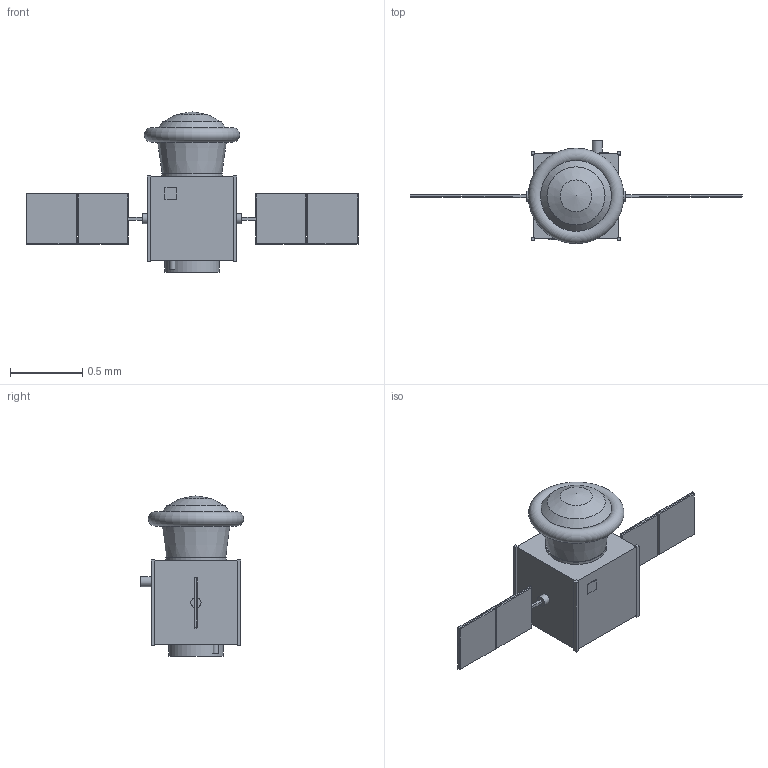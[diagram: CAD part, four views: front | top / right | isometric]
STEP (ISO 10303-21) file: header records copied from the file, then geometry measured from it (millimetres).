
FILE_DESCRIPTION(('Open CASCADE Model'),'2;1');
FILE_NAME('Open CASCADE Shape Model','2026-10-04T09:01:25',('Author'),( 'Open CASCADE'),'Open CASCADE STEP processor 7.9','Open CASCADE 7.9' ,'Unknown');
FILE_SCHEMA(('AUTOMOTIVE_DESIGN { 1 0 10303 214 1 1 1 1 }'));
Length unit declared in the file: millimetre
Products named in the file (45): SP-BRX; capsule_backshell; nose; heat_shield_packed; sample_drawer; sample_cassette_1; sample_cassette_2; sample_cassette_3; optical_window; capsule_avionics_and_hold_battery; parachute_canister; recovery_beacon; separation_interface; service_module_structure; corner_rail_-X-Y; corner_rail_-X+Y; corner_rail_+X-Y; corner_rail_+X+Y; radiator_+Y_face; experiment_instruments_microscope_pumps_reservoirs; propellant_tank_LMP-103S; battery; on-board_computer_and_radios; reaction_wheel_1; reaction_wheel_2; reaction_wheel_3; magnetorquer_1; magnetorquer_2; star_tracker; S-band_antenna; 22_N_thruster_1; 22_N_thruster_2; launch_separation_ring; array_drive_-X; yoke_-X; solar_panel_-X1; panel_frame_-X1; solar_panel_-X2; panel_frame_-X2; array_drive_+X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
Assembly tree (44 placements, depth 2):
  SP-BRX
    capsule_backshell
    nose
    heat_shield_packed
    sample_drawer
    sample_cassette_1
    sample_cassette_2
    sample_cassette_3
    optical_window
    capsule_avionics_and_hold_battery
    parachute_canister
    recovery_beacon
    separation_interface
    service_module_structure
    corner_rail_-X-Y
    corner_rail_-X+Y
    corner_rail_+X-Y
    corner_rail_+X+Y
    radiator_+Y_face
    experiment_instruments_microscope_pumps_reservoirs
    propellant_tank_LMP-103S
    battery
    on-board_computer_and_radios
    reaction_wheel_1
    reaction_wheel_2
    reaction_wheel_3
    magnetorquer_1
    magnetorquer_2
    star_tracker
    S-band_antenna
    22_N_thruster_1
    22_N_thruster_2
    launch_separation_ring
    array_drive_-X
    yoke_-X
    solar_panel_-X1
    panel_frame_-X1
    solar_panel_-X2
    panel_frame_-X2
    array_drive_+X
    yoke_+X
    solar_panel_+X1
    panel_frame_+X1
    solar_panel_+X2
    panel_frame_+X2
Bounding box: 2.3 x 0.72 x 1.11 mm (x, y, z)
Volume: 0.3 mm3; surface area: 8.5 mm2
Topology: 44 solids, 44 shells, 209 faces, 374 edges, 248 vertices
Faces by surface type: plane 187, cylinder 16, cone 4, torus 1, sphere 1
Full cylindrical faces by diameter (mm): 0.024 x2, 0.04 x1, 0.045 x2, 0.07 x3, 0.09 x3, 0.14 x1, 0.341 x1, 0.381 x1, 0.423 x1, 0.491 x1
Entity records: 10875 total; most frequent: DIRECTION 1656, CARTESIAN_POINT 1611, LINE 1039, VECTOR 1039, ORIENTED_EDGE 740, PCURVE 740, DEFINITIONAL_REPRESENTATION 740, EDGE_CURVE 370
